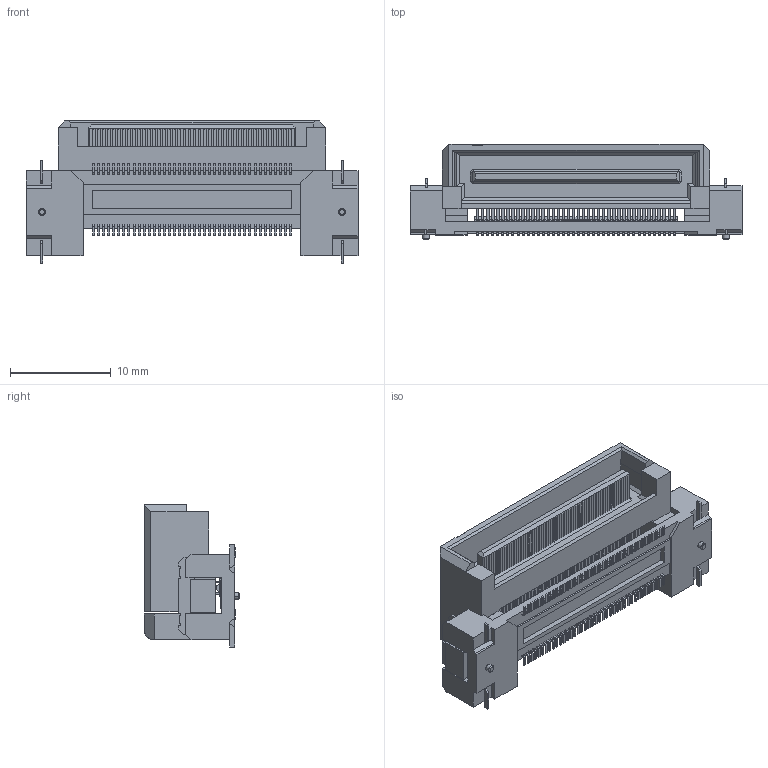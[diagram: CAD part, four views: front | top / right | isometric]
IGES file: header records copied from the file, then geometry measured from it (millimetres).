
Start section: Elysium IGES Interface
Global section: file name: 69HC:\Users\1314\Desktop\temp\回覧用-一時的\DTXX\80\P3D045_DT01-080L.igs; native system: Creo Elements/Direct Modeling 19.0F  14-Feb-2017; preprocessor: Creo Element/Direct IGES_3D V2.2; author: Unknown; organization: Unknown; date: 20170718.112835; units: millimetre
Bounding box: 32.92 x 9.5 x 14.09 mm (x, y, z)
Volume: 1218.1 mm3; surface area: 2938.6 mm2
Topology: 1 solids, 1 shells, 3830 faces, 10668 edges, 6964 vertices
Faces by surface type: bspline 3830
